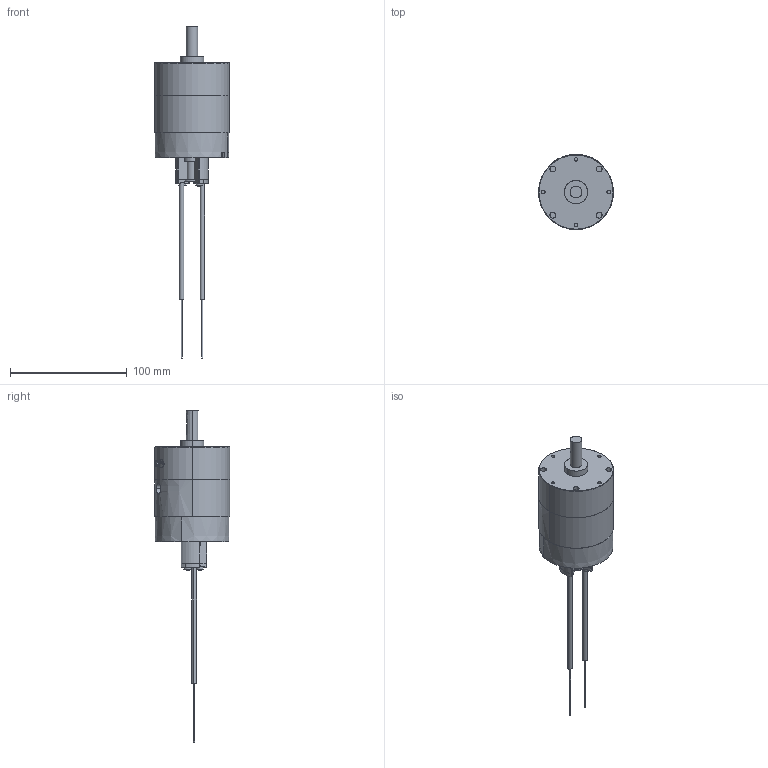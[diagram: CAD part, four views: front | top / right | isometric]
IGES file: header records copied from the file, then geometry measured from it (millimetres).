
Start section: SolidWorks IGES file using analytic representation for surfaces
Global section: file name: C:\Users\Chieh_Lu\Dropbox\¤u§@«Ç\PRO\PROA30S-D\PROA30S-D-#-#\PRO30D-#-#-#-FR.IGS; native system: SolidWorks 2014; preprocessor: SolidWorks 2014; author: Chieh_Lu; date: 150801.214034; units: millimetre
Bounding box: 64 x 64.3 x 284.2 mm (x, y, z)
Surface area: 59627.1 mm2 (no closed solid volume)
Topology: 0 solids, 0 shells, 517 faces, 7662 edges, 7658 vertices
Faces by surface type: bspline 268, revolution 249
